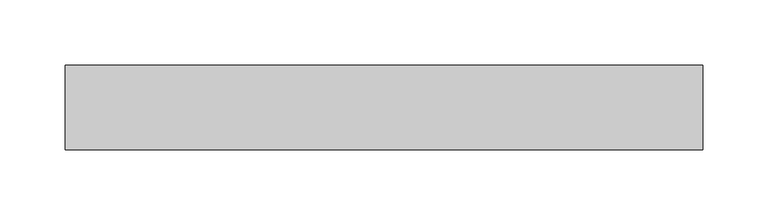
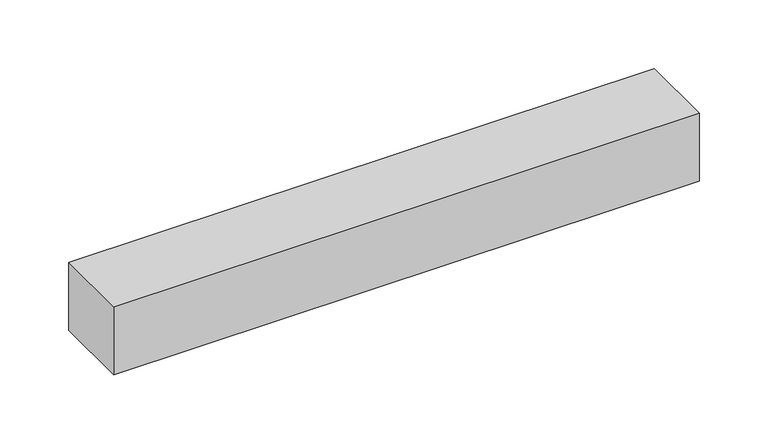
"""IFC4 building model written with IfcOpenShell, lengths in millimetres: light fixture geometry, GENILED_Светильник светодиодный_Trade Linear Advanced : Trade Linear Advanced 490x65x60 10Вт Deep Черный 4000К."""

from ifc_helpers import new_model, si_unit, frame, origin, place, context, project, spatial, polyline, outline, extrude, source, transform, mapped, element, save


def light_fixture_90001b4d(model_context):
    return source(origin(), model_context, "Body", "SweptSolid", [
        extrude(outline(polyline([(245.0, 32.5), (245.0, -32.5), (-245.0, -32.5), (-245.0, 32.5), (245.0, 32.5)])), frame((0.0, 0.0, -60.0), z_axis=(0.0, 0.0, 1.0), x_axis=(1.0, 0.0, 0.0)), (0.0, 0.0, 1.0), 60.0),
    ])


if __name__ == "__main__":
    model = new_model("IFC4")
    model_context = context("Model", 3, world=origin())
    ifc_project = project(units=[si_unit("LENGTHUNIT", "METRE", prefix="MILLI")], contexts=[model_context])
    site = spatial("IfcSite", under=ifc_project)
    building = spatial("IfcBuilding", under=site)
    placement = place(None, origin())
    light_fixture_shape = light_fixture_90001b4d(model_context)
    element("IfcLightFixture", 1, ObjectType="GENILED_Светильник светодиодный_Trade Linear Advanced : Trade Linear Advanced 490x65x60 10Вт Deep Черный 4000К", at=placement, inside=building, context=model_context, shape_type="MappedRepresentation", body=[
        mapped(light_fixture_shape, transform((0.0, 0.0, 0.0), x_axis=(1.0, 0.0, 0.0), y_axis=(0.0, 1.0, 0.0), z_axis=(0.0, 0.0, 1.0))),
    ])
    save(model, "model.ifc")
